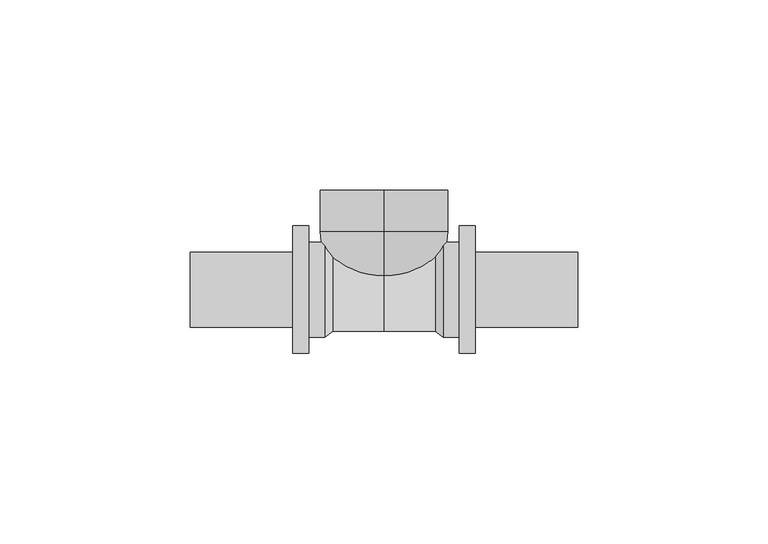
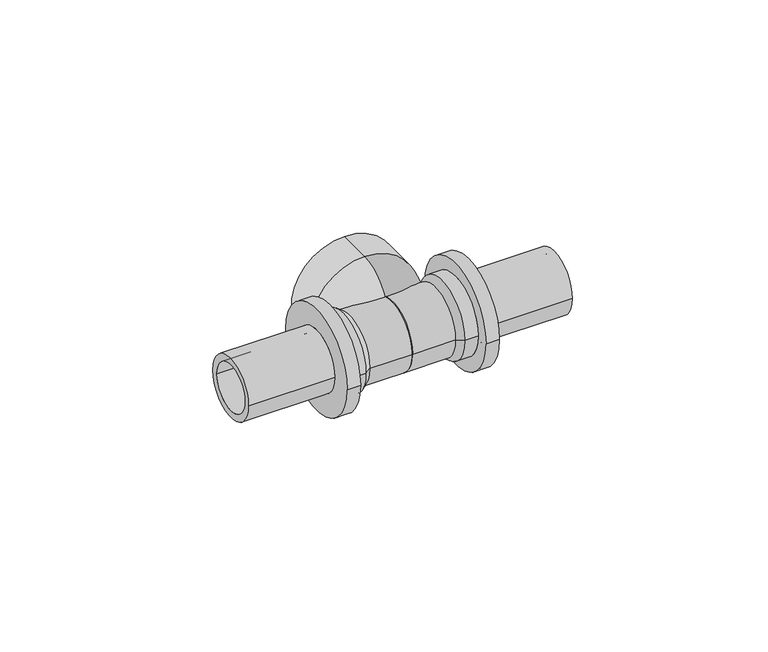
"""IFC4 building model written with IfcOpenShell, lengths in millimetres: pipe fitting geometry, REHAU_RAUTITAN_T-piece RX+, outlet with internal thread : REHAU_RAUTITAN_T-piece RX+, outlet with internal thread."""

from ifc_helpers import new_model, si_unit, point, frame, origin, place, context, project, spatial, polyline, circle_curve, ellipse_curve, trimmed, source, transform, mapped, element, save
from ifc_brep_helpers import plane_surface, cylinder_surface, revolved_surface, advanced_brep


def pipe_fitting_287578f1(model_context):
    return source(origin(), model_context, "Body", "AdvancedBrep", [
        advanced_brep(
        [(0.0, 2.0795601, 4.23), (0.0, 2.0795601, -4.23), (0.0, 15.15, -16.81), (0.0, 15.15, 16.81), (0.0, 5.8133786, 4.23), (0.0, 5.8133786, -4.23), (0.0, 15.15, 13.08), (0.0, 15.15, -13.08), (0.0, 26.16, 13.08), (0.0, 26.16, -13.08), (0.0, 26.16, -16.81), (0.0, 26.16, 16.81)],
        [
            (0, 1, circle_curve(frame((0.0, 2.0795601, 0.0), z_axis=(0.0, 1.0, 0.0), x_axis=(0.0, 0.0, -1.0)), 4.23)),
            (1, 2, circle_curve(frame((0.0, 15.15, -3.73), z_axis=(1.0, 0.0, 0.0), x_axis=(0.0, 1.0, 0.0)), 13.08)),
            (2, 3, circle_curve(frame((0.0, 15.15, 0.0), z_axis=(0.0, -1.0, 0.0), x_axis=(0.0, 0.0, -1.0)), 16.81)),
            (3, 0, circle_curve(frame((0.0, 15.15, 3.73), z_axis=(1.0, 0.0, 0.0), x_axis=(0.0, 1.0, 0.0)), 13.08)),
            (4, 5, circle_curve(frame((0.0, 5.8133786, 0.0), z_axis=(0.0, 1.0, 0.0), x_axis=(0.0, 0.0, -1.0)), 4.23)),
            (5, 1),
            (0, 4),
            (6, 7, circle_curve(frame((0.0, 15.15, 0.0), z_axis=(0.0, 1.0, 0.0), x_axis=(0.0, 0.0, -1.0)), 13.08)),
            (7, 5, circle_curve(frame((0.0, 15.15, -3.73), z_axis=(-1.0, 0.0, 0.0), x_axis=(0.0, 1.0, 0.0)), 9.35)),
            (4, 6, circle_curve(frame((0.0, 15.15, 3.73), z_axis=(-1.0, 0.0, 0.0), x_axis=(0.0, 1.0, 0.0)), 9.35)),
            (8, 9, circle_curve(frame((0.0, 26.16, 0.0), z_axis=(0.0, 1.0, 0.0), x_axis=(0.0, 0.0, -1.0)), 13.08)),
            (9, 7),
            (6, 8),
            (2, 10),
            (10, 11, circle_curve(frame((0.0, 26.16, 0.0), z_axis=(0.0, -1.0, 0.0), x_axis=(0.0, 0.0, -1.0)), 16.81)),
            (11, 3),
            (1, 0, circle_curve(frame((0.0, 2.0795601, 0.0), z_axis=(0.0, 1.0, 0.0), x_axis=(0.0, 0.0, 1.0)), 4.23)),
            (3, 2, circle_curve(frame((0.0, 15.15, 0.0), z_axis=(0.0, -1.0, 0.0), x_axis=(0.0, 0.0, 1.0)), 16.81)),
            (5, 4, circle_curve(frame((0.0, 5.8133786, 0.0), z_axis=(0.0, 1.0, 0.0), x_axis=(0.0, 0.0, 1.0)), 4.23)),
            (7, 6, circle_curve(frame((0.0, 15.15, 0.0), z_axis=(0.0, 1.0, 0.0), x_axis=(0.0, 0.0, 1.0)), 13.08)),
            (9, 8, circle_curve(frame((0.0, 26.16, 0.0), z_axis=(0.0, 1.0, 0.0), x_axis=(0.0, 0.0, 1.0)), 13.08)),
            (10, 11, circle_curve(frame((0.0, 26.16, 0.0), z_axis=(0.0, 1.0, 0.0), x_axis=(0.0, 0.0, 1.0)), 16.81)),
        ],
        [
            revolved_surface(trimmed(ellipse_curve(frame((0.0, 15.15, -3.73), z_axis=(-1.0, 0.0, 0.0), x_axis=(0.0, 1.0, 0.0)), 13.08, 13.08), [point((0.0, 15.15, -16.81))], [point((0.0, 2.0795601, -4.23))], True, "CARTESIAN"), (0.0, 0.0, 0.0), (0.0, -1.0, 0.0)),
            revolved_surface(polyline([(0.0, 2.0795601, -4.23), (0.0, 5.8133786, -4.23)]), (0.0, 0.0, 0.0), (0.0, -1.0, 0.0)),
            revolved_surface(trimmed(ellipse_curve(frame((0.0, 15.15, -3.73), z_axis=(1.0, 0.0, 0.0), x_axis=(0.0, 1.0, 0.0)), 9.35, 9.35), [point((0.0, 5.8133786, -4.23))], [point((0.0, 15.15, -13.08))], True, "CARTESIAN"), (0.0, 0.0, 0.0), (0.0, -1.0, 0.0)),
            revolved_surface(polyline([(0.0, 15.15, -13.08), (0.0, 26.16, -13.08)]), (0.0, 0.0, 0.0), (0.0, -1.0, 0.0)),
            cylinder_surface(frame((0.0, 0.0, 0.0), z_axis=(0.0, -1.0, 0.0), x_axis=(0.0, 0.0, -1.0)), 16.81),
            revolved_surface(trimmed(ellipse_curve(frame((0.0, 15.15, 3.73), z_axis=(1.0, 0.0, 0.0), x_axis=(0.0, 1.0, 0.0)), 13.08, 13.08), [point((0.0, 15.15, 16.81))], [point((0.0, 2.0795601, 4.23))], True, "CARTESIAN"), (0.0, 0.0, 0.0), (0.0, -1.0, 0.0)),
            revolved_surface(polyline([(0.0, 2.0795601, 4.23), (0.0, 5.8133786, 4.23)]), (0.0, 0.0, 0.0), (0.0, -1.0, 0.0)),
            revolved_surface(trimmed(ellipse_curve(frame((0.0, 15.15, 3.73), z_axis=(-1.0, 0.0, 0.0), x_axis=(0.0, 1.0, 0.0)), 9.35, 9.35), [point((0.0, 5.8133786, 4.23))], [point((0.0, 15.15, 13.08))], True, "CARTESIAN"), (0.0, 0.0, 0.0), (0.0, -1.0, 0.0)),
            revolved_surface(polyline([(0.0, 15.15, 13.08), (0.0, 26.16, 13.08)]), (0.0, 0.0, 0.0), (0.0, -1.0, 0.0)),
            plane_surface(frame((0.0, 26.16, 0.0), z_axis=(0.0, 1.0, 0.0), x_axis=(0.0, 0.0, 1.0))),
            cylinder_surface(frame((0.0, 0.0, 0.0), z_axis=(0.0, -1.0, 0.0), x_axis=(0.0, 0.0, 1.0)), 16.81),
        ],
        [
            (0, [[1, 2, 3, 4]]),
            (1, [[5, 6, -1, 7]]),
            (2, [[8, 9, -5, 10]]),
            (3, [[11, 12, -8, 13]]),
            (4, [[-3, 14, 15, 16]]),
            (5, [[17, -4, 18, -2]]),
            (6, [[19, -7, -17, -6]]),
            (7, [[20, -10, -19, -9]]),
            (8, [[21, -13, -20, -12]]),
            (9, [[22, -15], [-21, -11]]),
            (10, [[-18, -16, -22, -14]]),
        ],
    ),
        advanced_brep(
        [(15.6, 7.6, 0.0), (15.6, -7.6, 0.0), (51.0, -7.6, 0.0), (51.0, 7.6, 0.0), (13.5, 8.195, 0.0), (13.5, -8.195, 0.0), (0.0, 8.195, 0.0), (0.0, -8.195, 0.0), (13.5, 11.0, 0.0), (13.5, -11.0, 0.0), (0.0, -11.0, 0.0), (0.0, 11.0, 0.0), (15.6, 12.5, 0.0), (15.6, -12.5, 0.0), (19.8, 12.5, 0.0), (19.8, -12.5, 0.0), (24.0, 16.8, 0.0), (24.0, -16.8, 0.0), (19.8, -16.8, 0.0), (19.8, 16.8, 0.0), (51.0, 9.875, 0.0), (51.0, -9.875, 0.0), (24.0, -9.875, 0.0), (24.0, 9.875, 0.0)],
        [
            (0, 1, circle_curve(frame((15.6, 0.0, 0.0), z_axis=(-1.0, 0.0, 0.0), x_axis=(0.0, -1.0, 0.0)), 7.6)),
            (1, 2),
            (2, 3, circle_curve(frame((51.0, 0.0, 0.0), z_axis=(1.0, 0.0, 0.0), x_axis=(0.0, -1.0, 0.0)), 7.6)),
            (3, 0),
            (4, 5, circle_curve(frame((13.5, 0.0, 0.0), z_axis=(-1.0, 0.0, 0.0), x_axis=(0.0, -1.0, 0.0)), 8.195)),
            (5, 1),
            (0, 4),
            (6, 7, circle_curve(frame((0.0, 0.0, 0.0), z_axis=(-1.0, 0.0, 0.0), x_axis=(0.0, -1.0, 0.0)), 8.195)),
            (7, 5),
            (4, 6),
            (8, 9, circle_curve(frame((13.5, 0.0, 0.0), z_axis=(-1.0, 0.0, 0.0), x_axis=(0.0, -1.0, 0.0)), 11.0)),
            (9, 10),
            (10, 11, circle_curve(frame((0.0, 0.0, 0.0), z_axis=(1.0, 0.0, 0.0), x_axis=(0.0, -1.0, 0.0)), 11.0)),
            (11, 8),
            (12, 13, circle_curve(frame((15.6, 0.0, 0.0), z_axis=(-1.0, 0.0, 0.0), x_axis=(0.0, -1.0, 0.0)), 12.5)),
            (13, 9),
            (8, 12),
            (14, 15, circle_curve(frame((19.8, 0.0, 0.0), z_axis=(-1.0, 0.0, 0.0), x_axis=(0.0, -1.0, 0.0)), 12.5)),
            (15, 13),
            (12, 14),
            (16, 17, circle_curve(frame((24.0, 0.0, 0.0), z_axis=(-1.0, 0.0, 0.0), x_axis=(0.0, -1.0, 0.0)), 16.8)),
            (17, 18),
            (18, 19, circle_curve(frame((19.8, 0.0, 0.0), z_axis=(1.0, 0.0, 0.0), x_axis=(0.0, -1.0, 0.0)), 16.8)),
            (19, 16),
            (20, 21, circle_curve(frame((51.0, 0.0, 0.0), z_axis=(-1.0, 0.0, 0.0), x_axis=(0.0, -1.0, 0.0)), 9.875)),
            (21, 22),
            (22, 23, circle_curve(frame((24.0, 0.0, 0.0), z_axis=(1.0, 0.0, 0.0), x_axis=(0.0, -1.0, 0.0)), 9.875)),
            (23, 20),
            (20, 21, circle_curve(frame((51.0, 0.0, 0.0), z_axis=(1.0, 0.0, 0.0), x_axis=(0.0, 1.0, 0.0)), 9.875)),
            (2, 3, circle_curve(frame((51.0, 0.0, 0.0), z_axis=(-1.0, 0.0, 0.0), x_axis=(0.0, 1.0, 0.0)), 7.6)),
            (1, 0, circle_curve(frame((15.6, 0.0, 0.0), z_axis=(-1.0, 0.0, 0.0), x_axis=(0.0, 1.0, 0.0)), 7.6)),
            (5, 4, circle_curve(frame((13.5, 0.0, 0.0), z_axis=(-1.0, 0.0, 0.0), x_axis=(0.0, 1.0, 0.0)), 8.195)),
            (7, 6, circle_curve(frame((0.0, 0.0, 0.0), z_axis=(-1.0, 0.0, 0.0), x_axis=(0.0, 1.0, 0.0)), 8.195)),
            (10, 11, circle_curve(frame((0.0, 0.0, 0.0), z_axis=(-1.0, 0.0, 0.0), x_axis=(0.0, 1.0, 0.0)), 11.0)),
            (9, 8, circle_curve(frame((13.5, 0.0, 0.0), z_axis=(-1.0, 0.0, 0.0), x_axis=(0.0, 1.0, 0.0)), 11.0)),
            (13, 12, circle_curve(frame((15.6, 0.0, 0.0), z_axis=(-1.0, 0.0, 0.0), x_axis=(0.0, 1.0, 0.0)), 12.5)),
            (15, 14, circle_curve(frame((19.8, 0.0, 0.0), z_axis=(-1.0, 0.0, 0.0), x_axis=(0.0, 1.0, 0.0)), 12.5)),
            (18, 19, circle_curve(frame((19.8, 0.0, 0.0), z_axis=(-1.0, 0.0, 0.0), x_axis=(0.0, 1.0, 0.0)), 16.8)),
            (17, 16, circle_curve(frame((24.0, 0.0, 0.0), z_axis=(-1.0, 0.0, 0.0), x_axis=(0.0, 1.0, 0.0)), 16.8)),
            (22, 23, circle_curve(frame((24.0, 0.0, 0.0), z_axis=(-1.0, 0.0, 0.0), x_axis=(0.0, 1.0, 0.0)), 9.875)),
        ],
        [
            revolved_surface(polyline([(51.0, -7.6, 0.0), (15.6, -7.6, 0.0)]), (0.0, 0.0, 0.0), (1.0, 0.0, 0.0)),
            revolved_surface(polyline([(15.6, -7.6, 0.0), (13.5, -8.195, 0.0)]), (0.0, 0.0, 0.0), (1.0, 0.0, 0.0)),
            revolved_surface(polyline([(13.5, -8.195, 0.0), (0.0, -8.195, 0.0)]), (0.0, 0.0, 0.0), (1.0, 0.0, 0.0)),
            cylinder_surface(frame((0.0, 0.0, 0.0), z_axis=(1.0, 0.0, 0.0), x_axis=(0.0, -1.0, 0.0)), 11.0),
            revolved_surface(polyline([(13.5, -11.0, 0.0), (15.6, -12.5, 0.0)]), (0.0, 0.0, 0.0), (1.0, 0.0, 0.0)),
            cylinder_surface(frame((0.0, 0.0, 0.0), z_axis=(1.0, 0.0, 0.0), x_axis=(0.0, -1.0, 0.0)), 12.5),
            cylinder_surface(frame((0.0, 0.0, 0.0), z_axis=(1.0, 0.0, 0.0), x_axis=(0.0, -1.0, 0.0)), 16.8),
            cylinder_surface(frame((0.0, 0.0, 0.0), z_axis=(1.0, 0.0, 0.0), x_axis=(0.0, -1.0, 0.0)), 9.875),
            plane_surface(frame((51.0, 0.0, 0.0), z_axis=(1.0, 0.0, 0.0), x_axis=(0.0, 1.0, 0.0))),
            revolved_surface(polyline([(51.0, 7.6, 0.0), (15.6, 7.6, 0.0)]), (0.0, 0.0, 0.0), (1.0, 0.0, 0.0)),
            revolved_surface(polyline([(15.6, 7.6, 0.0), (13.5, 8.195, 0.0)]), (0.0, 0.0, 0.0), (1.0, 0.0, 0.0)),
            revolved_surface(polyline([(13.5, 8.195, 0.0), (0.0, 8.195, 0.0)]), (0.0, 0.0, 0.0), (1.0, 0.0, 0.0)),
            plane_surface(frame((0.0, 0.0, 0.0), z_axis=(-1.0, 0.0, 0.0), x_axis=(0.0, 1.0, 0.0))),
            cylinder_surface(frame((0.0, 0.0, 0.0), z_axis=(1.0, 0.0, 0.0), x_axis=(0.0, 1.0, 0.0)), 11.0),
            revolved_surface(polyline([(13.5, 11.0, 0.0), (15.6, 12.5, 0.0)]), (0.0, 0.0, 0.0), (1.0, 0.0, 0.0)),
            cylinder_surface(frame((0.0, 0.0, 0.0), z_axis=(1.0, 0.0, 0.0), x_axis=(0.0, 1.0, 0.0)), 12.5),
            plane_surface(frame((19.8, 0.0, 0.0), z_axis=(-1.0, 0.0, 0.0), x_axis=(0.0, 1.0, 0.0))),
            cylinder_surface(frame((0.0, 0.0, 0.0), z_axis=(1.0, 0.0, 0.0), x_axis=(0.0, 1.0, 0.0)), 16.8),
            plane_surface(frame((24.0, 0.0, 0.0), z_axis=(1.0, 0.0, 0.0), x_axis=(0.0, 1.0, 0.0))),
            cylinder_surface(frame((0.0, 0.0, 0.0), z_axis=(1.0, 0.0, 0.0), x_axis=(0.0, 1.0, 0.0)), 9.875),
        ],
        [
            (0, [[1, 2, 3, 4]]),
            (1, [[5, 6, -1, 7]]),
            (2, [[8, 9, -5, 10]]),
            (3, [[11, 12, 13, 14]]),
            (4, [[15, 16, -11, 17]]),
            (5, [[18, 19, -15, 20]]),
            (6, [[21, 22, 23, 24]]),
            (7, [[25, 26, 27, 28]]),
            (8, [[29, -25], [30, -3]]),
            (9, [[31, -4, -30, -2]]),
            (10, [[32, -7, -31, -6]]),
            (11, [[33, -10, -32, -9]]),
            (12, [[34, -13], [-33, -8]]),
            (13, [[35, -14, -34, -12]]),
            (14, [[36, -17, -35, -16]]),
            (15, [[37, -20, -36, -19]]),
            (16, [[38, -23], [-37, -18]]),
            (17, [[39, -24, -38, -22]]),
            (18, [[-39, -21], [40, -27]]),
            (19, [[-29, -28, -40, -26]]),
        ],
    ),
        advanced_brep(
        [(-24.0, 9.875, 0.0), (-24.0, -9.875, 0.0), (-51.0, -9.875, 0.0), (-51.0, 9.875, 0.0), (-19.8, 16.8, 0.0), (-19.8, -16.8, 0.0), (-24.0, -16.8, 0.0), (-24.0, 16.8, 0.0), (-15.6, 12.5, 0.0), (-15.6, -12.5, 0.0), (-19.8, -12.5, 0.0), (-19.8, 12.5, 0.0), (-13.5, 11.0, 0.0), (-13.5, -11.0, 0.0), (0.0, 11.0, 0.0), (0.0, -11.0, 0.0), (-13.5, 8.195, 0.0), (-13.5, -8.195, 0.0), (0.0, -8.195, 0.0), (0.0, 8.195, 0.0), (-15.6, 7.6, 0.0), (-15.6, -7.6, 0.0), (-51.0, 7.6, 0.0), (-51.0, -7.6, 0.0)],
        [
            (0, 1, circle_curve(frame((-24.0, 0.0, 0.0), z_axis=(-1.0, 0.0, 0.0), x_axis=(0.0, -1.0, 0.0)), 9.875)),
            (1, 2),
            (2, 3, circle_curve(frame((-51.0, 0.0, 0.0), z_axis=(1.0, 0.0, 0.0), x_axis=(0.0, -1.0, 0.0)), 9.875)),
            (3, 0),
            (4, 5, circle_curve(frame((-19.8, 0.0, 0.0), z_axis=(-1.0, 0.0, 0.0), x_axis=(0.0, -1.0, 0.0)), 16.8)),
            (5, 6),
            (6, 7, circle_curve(frame((-24.0, 0.0, 0.0), z_axis=(1.0, 0.0, 0.0), x_axis=(0.0, -1.0, 0.0)), 16.8)),
            (7, 4),
            (8, 9, circle_curve(frame((-15.6, 0.0, 0.0), z_axis=(-1.0, 0.0, 0.0), x_axis=(0.0, -1.0, 0.0)), 12.5)),
            (9, 10),
            (10, 11, circle_curve(frame((-19.8, 0.0, 0.0), z_axis=(1.0, 0.0, 0.0), x_axis=(0.0, -1.0, 0.0)), 12.5)),
            (11, 8),
            (12, 13, circle_curve(frame((-13.5, 0.0, 0.0), z_axis=(-1.0, 0.0, 0.0), x_axis=(0.0, -1.0, 0.0)), 11.0)),
            (13, 9),
            (8, 12),
            (14, 15, circle_curve(frame((0.0, 0.0, 0.0), z_axis=(-1.0, 0.0, 0.0), x_axis=(0.0, -1.0, 0.0)), 11.0)),
            (15, 13),
            (12, 14),
            (16, 17, circle_curve(frame((-13.5, 0.0, 0.0), z_axis=(-1.0, 0.0, 0.0), x_axis=(0.0, -1.0, 0.0)), 8.195)),
            (17, 18),
            (18, 19, circle_curve(frame((0.0, 0.0, 0.0), z_axis=(1.0, 0.0, 0.0), x_axis=(0.0, -1.0, 0.0)), 8.195)),
            (19, 16),
            (20, 21, circle_curve(frame((-15.6, 0.0, 0.0), z_axis=(-1.0, 0.0, 0.0), x_axis=(0.0, -1.0, 0.0)), 7.6)),
            (21, 17),
            (16, 20),
            (22, 23, circle_curve(frame((-51.0, 0.0, 0.0), z_axis=(-1.0, 0.0, 0.0), x_axis=(0.0, -1.0, 0.0)), 7.6)),
            (23, 21),
            (20, 22),
            (1, 0, circle_curve(frame((-24.0, 0.0, 0.0), z_axis=(-1.0, 0.0, 0.0), x_axis=(0.0, 1.0, 0.0)), 9.875)),
            (3, 2, circle_curve(frame((-51.0, 0.0, 0.0), z_axis=(1.0, 0.0, 0.0), x_axis=(0.0, 1.0, 0.0)), 9.875)),
            (6, 7, circle_curve(frame((-24.0, 0.0, 0.0), z_axis=(-1.0, 0.0, 0.0), x_axis=(0.0, 1.0, 0.0)), 16.8)),
            (5, 4, circle_curve(frame((-19.8, 0.0, 0.0), z_axis=(-1.0, 0.0, 0.0), x_axis=(0.0, 1.0, 0.0)), 16.8)),
            (10, 11, circle_curve(frame((-19.8, 0.0, 0.0), z_axis=(-1.0, 0.0, 0.0), x_axis=(0.0, 1.0, 0.0)), 12.5)),
            (9, 8, circle_curve(frame((-15.6, 0.0, 0.0), z_axis=(-1.0, 0.0, 0.0), x_axis=(0.0, 1.0, 0.0)), 12.5)),
            (13, 12, circle_curve(frame((-13.5, 0.0, 0.0), z_axis=(-1.0, 0.0, 0.0), x_axis=(0.0, 1.0, 0.0)), 11.0)),
            (15, 14, circle_curve(frame((0.0, 0.0, 0.0), z_axis=(-1.0, 0.0, 0.0), x_axis=(0.0, 1.0, 0.0)), 11.0)),
            (18, 19, circle_curve(frame((0.0, 0.0, 0.0), z_axis=(-1.0, 0.0, 0.0), x_axis=(0.0, 1.0, 0.0)), 8.195)),
            (17, 16, circle_curve(frame((-13.5, 0.0, 0.0), z_axis=(-1.0, 0.0, 0.0), x_axis=(0.0, 1.0, 0.0)), 8.195)),
            (21, 20, circle_curve(frame((-15.6, 0.0, 0.0), z_axis=(-1.0, 0.0, 0.0), x_axis=(0.0, 1.0, 0.0)), 7.6)),
            (23, 22, circle_curve(frame((-51.0, 0.0, 0.0), z_axis=(-1.0, 0.0, 0.0), x_axis=(0.0, 1.0, 0.0)), 7.6)),
        ],
        [
            cylinder_surface(frame((0.0, 0.0, 0.0), z_axis=(1.0, 0.0, 0.0), x_axis=(0.0, -1.0, 0.0)), 9.875),
            cylinder_surface(frame((0.0, 0.0, 0.0), z_axis=(1.0, 0.0, 0.0), x_axis=(0.0, -1.0, 0.0)), 16.8),
            cylinder_surface(frame((0.0, 0.0, 0.0), z_axis=(1.0, 0.0, 0.0), x_axis=(0.0, -1.0, 0.0)), 12.5),
            revolved_surface(polyline([(-15.6, -12.5, 0.0), (-13.5, -11.0, 0.0)]), (0.0, 0.0, 0.0), (1.0, 0.0, 0.0)),
            cylinder_surface(frame((0.0, 0.0, 0.0), z_axis=(1.0, 0.0, 0.0), x_axis=(0.0, -1.0, 0.0)), 11.0),
            revolved_surface(polyline([(0.0, -8.195, 0.0), (-13.5, -8.195, 0.0)]), (0.0, 0.0, 0.0), (1.0, 0.0, 0.0)),
            revolved_surface(polyline([(-13.5, -8.195, 0.0), (-15.6, -7.6, 0.0)]), (0.0, 0.0, 0.0), (1.0, 0.0, 0.0)),
            revolved_surface(polyline([(-15.6, -7.6, 0.0), (-51.0, -7.6, 0.0)]), (0.0, 0.0, 0.0), (1.0, 0.0, 0.0)),
            cylinder_surface(frame((0.0, 0.0, 0.0), z_axis=(1.0, 0.0, 0.0), x_axis=(0.0, 1.0, 0.0)), 9.875),
            plane_surface(frame((-24.0, 0.0, 0.0), z_axis=(-1.0, 0.0, 0.0), x_axis=(0.0, 1.0, 0.0))),
            cylinder_surface(frame((0.0, 0.0, 0.0), z_axis=(1.0, 0.0, 0.0), x_axis=(0.0, 1.0, 0.0)), 16.8),
            plane_surface(frame((-19.8, 0.0, 0.0), z_axis=(1.0, 0.0, 0.0), x_axis=(0.0, 1.0, 0.0))),
            cylinder_surface(frame((0.0, 0.0, 0.0), z_axis=(1.0, 0.0, 0.0), x_axis=(0.0, 1.0, 0.0)), 12.5),
            revolved_surface(polyline([(-15.6, 12.5, 0.0), (-13.5, 11.0, 0.0)]), (0.0, 0.0, 0.0), (1.0, 0.0, 0.0)),
            cylinder_surface(frame((0.0, 0.0, 0.0), z_axis=(1.0, 0.0, 0.0), x_axis=(0.0, 1.0, 0.0)), 11.0),
            plane_surface(frame((0.0, 0.0, 0.0), z_axis=(1.0, 0.0, 0.0), x_axis=(0.0, 1.0, 0.0))),
            revolved_surface(polyline([(0.0, 8.195, 0.0), (-13.5, 8.195, 0.0)]), (0.0, 0.0, 0.0), (1.0, 0.0, 0.0)),
            revolved_surface(polyline([(-13.5, 8.195, 0.0), (-15.6, 7.6, 0.0)]), (0.0, 0.0, 0.0), (1.0, 0.0, 0.0)),
            revolved_surface(polyline([(-15.6, 7.6, 0.0), (-51.0, 7.6, 0.0)]), (0.0, 0.0, 0.0), (1.0, 0.0, 0.0)),
            plane_surface(frame((-51.0, 0.0, 0.0), z_axis=(-1.0, 0.0, 0.0), x_axis=(0.0, 1.0, 0.0))),
        ],
        [
            (0, [[1, 2, 3, 4]]),
            (1, [[5, 6, 7, 8]]),
            (2, [[9, 10, 11, 12]]),
            (3, [[13, 14, -9, 15]]),
            (4, [[16, 17, -13, 18]]),
            (5, [[19, 20, 21, 22]]),
            (6, [[23, 24, -19, 25]]),
            (7, [[26, 27, -23, 28]]),
            (8, [[29, -4, 30, -2]]),
            (9, [[31, -7], [-29, -1]]),
            (10, [[32, -8, -31, -6]]),
            (11, [[-32, -5], [33, -11]]),
            (12, [[34, -12, -33, -10]]),
            (13, [[35, -15, -34, -14]]),
            (14, [[36, -18, -35, -17]]),
            (15, [[-36, -16], [37, -21]]),
            (16, [[38, -22, -37, -20]]),
            (17, [[39, -25, -38, -24]]),
            (18, [[40, -28, -39, -27]]),
            (19, [[-30, -3], [-40, -26]]),
        ],
    ),
    ])


if __name__ == "__main__":
    model = new_model("IFC4")
    model_context = context("Model", 3, world=origin())
    ifc_project = project(units=[si_unit("LENGTHUNIT", "METRE", prefix="MILLI")], contexts=[model_context])
    site = spatial("IfcSite", under=ifc_project)
    building = spatial("IfcBuilding", under=site)
    placement = place(None, origin())
    pipe_fitting_shape = pipe_fitting_287578f1(model_context)
    element("IfcPipeFitting", 1, ObjectType="REHAU_RAUTITAN_T-piece RX+, outlet with internal thread : REHAU_RAUTITAN_T-piece RX+, outlet with internal thread", at=placement, inside=building, context=model_context, shape_type="MappedRepresentation", body=[
        mapped(pipe_fitting_shape, transform((0.0, 0.0, 0.0), x_axis=(1.0, 0.0, 0.0), y_axis=(0.0, 1.0, 0.0), z_axis=(0.0, 0.0, 1.0))),
    ])
    save(model, "model.ifc")
